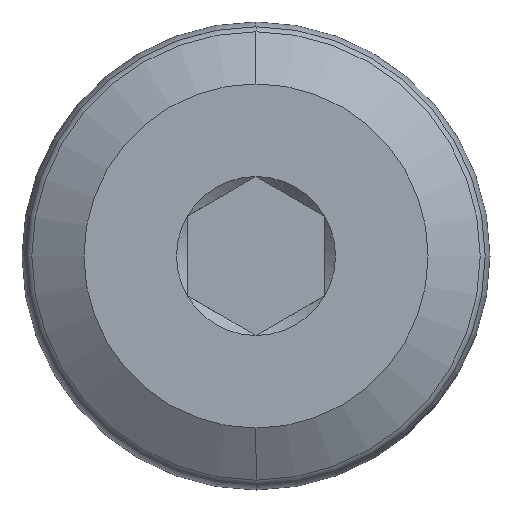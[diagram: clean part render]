
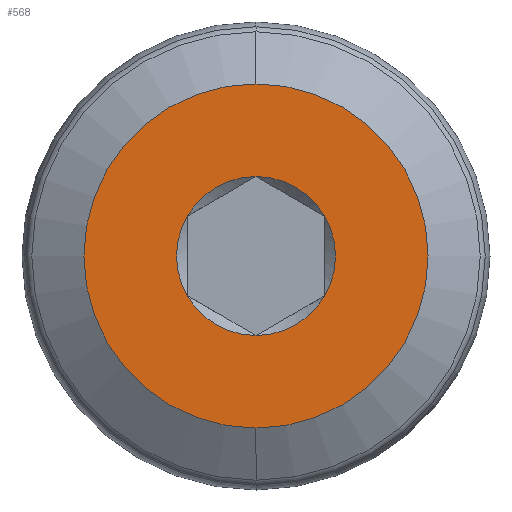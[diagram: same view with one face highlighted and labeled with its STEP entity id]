
A CAD part, left-side view. The second image highlights one B-rep face of the part: STEP entity #568.
In plain terms, the highlighted planar face has unit normal (-1, 0, 0).
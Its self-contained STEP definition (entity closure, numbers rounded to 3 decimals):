
#1 = FACE_OUTER_BOUND ( 'NONE', #299, .T. ) ;
#2 = ORIENTED_EDGE ( 'NONE', *, *, #730, .T. ) ;
#3 = CIRCLE ( 'NONE', #588, 1.155 ) ;
#9 = CARTESIAN_POINT ( 'NONE',  ( 0., 0., 0. ) ) ;
#20 = VERTEX_POINT ( 'NONE', #700 ) ;
#22 = CARTESIAN_POINT ( 'NONE',  ( 0., 0., 0. ) ) ;
#23 = VERTEX_POINT ( 'NONE', #460 ) ;
#31 = EDGE_CURVE ( 'NONE', #471, #623, #334, .T. ) ;
#43 = ORIENTED_EDGE ( 'NONE', *, *, #688, .T. ) ;
#61 = DIRECTION ( 'NONE',  ( 0., 0., -1. ) ) ;
#62 = CARTESIAN_POINT ( 'NONE',  ( 0., 1., 0.577 ) ) ;
#117 = DIRECTION ( 'NONE',  ( 0., 0., -1. ) ) ;
#124 = CARTESIAN_POINT ( 'NONE',  ( 0., 0., 0. ) ) ;
#128 = AXIS2_PLACEMENT_3D ( 'NONE', #124, #129, #61 ) ;
#129 = DIRECTION ( 'NONE',  ( 1., 0., 0. ) ) ;
#132 = ORIENTED_EDGE ( 'NONE', *, *, #357, .T. ) ;
#143 = VERTEX_POINT ( 'NONE', #288 ) ;
#147 = DIRECTION ( 'NONE',  ( 1., 0., 0. ) ) ;
#154 = CIRCLE ( 'NONE', #573, 1.155 ) ;
#162 = VERTEX_POINT ( 'NONE', #338 ) ;
#179 = PLANE ( 'NONE',  #462 ) ;
#228 = EDGE_CURVE ( 'NONE', #623, #471, #690, .T. ) ;
#236 = AXIS2_PLACEMENT_3D ( 'NONE', #333, #511, #635 ) ;
#250 = DIRECTION ( 'NONE',  ( 0., 0., -1. ) ) ;
#254 = DIRECTION ( 'NONE',  ( 0., 0., 1. ) ) ;
#261 = CARTESIAN_POINT ( 'NONE',  ( 0., 0., -1.155 ) ) ;
#288 = CARTESIAN_POINT ( 'NONE',  ( 0., -1., 0.577 ) ) ;
#299 = EDGE_LOOP ( 'NONE', ( #659, #366 ) ) ;
#304 = CIRCLE ( 'NONE', #710, 1.155 ) ;
#322 = DIRECTION ( 'NONE',  ( 1., 0., 0. ) ) ;
#324 = EDGE_CURVE ( 'NONE', #162, #542, #325, .T. ) ;
#325 = CIRCLE ( 'NONE', #722, 1.155 ) ;
#333 = CARTESIAN_POINT ( 'NONE',  ( 0., 0., 0. ) ) ;
#334 = CIRCLE ( 'NONE', #236, 2.5 ) ;
#338 = CARTESIAN_POINT ( 'NONE',  ( 0., 1., -0.577 ) ) ;
#339 = EDGE_CURVE ( 'NONE', #542, #23, #407, .T. ) ;
#357 = EDGE_CURVE ( 'NONE', #20, #780, #383, .T. ) ;
#360 = FACE_BOUND ( 'NONE', #522, .T. ) ;
#366 = ORIENTED_EDGE ( 'NONE', *, *, #228, .F. ) ;
#374 = CARTESIAN_POINT ( 'NONE',  ( 0., 0., 2.5 ) ) ;
#381 = CARTESIAN_POINT ( 'NONE',  ( 0., 0., -2.5 ) ) ;
#383 = CIRCLE ( 'NONE', #128, 1.155 ) ;
#394 = EDGE_CURVE ( 'NONE', #780, #162, #3, .T. ) ;
#398 = CARTESIAN_POINT ( 'NONE',  ( 0., 0., 0. ) ) ;
#403 = AXIS2_PLACEMENT_3D ( 'NONE', #712, #412, #774 ) ;
#407 = CIRCLE ( 'NONE', #564, 1.155 ) ;
#412 = DIRECTION ( 'NONE',  ( 1., 0., 0. ) ) ;
#422 = DIRECTION ( 'NONE',  ( 1., 0., 0. ) ) ;
#427 = DIRECTION ( 'NONE',  ( 1., 0., 0. ) ) ;
#434 = ORIENTED_EDGE ( 'NONE', *, *, #394, .T. ) ;
#437 = DIRECTION ( 'NONE',  ( -1., 0., 0. ) ) ;
#460 = CARTESIAN_POINT ( 'NONE',  ( 0., 0., 1.155 ) ) ;
#462 = AXIS2_PLACEMENT_3D ( 'NONE', #733, #437, #254 ) ;
#471 = VERTEX_POINT ( 'NONE', #381 ) ;
#500 = CARTESIAN_POINT ( 'NONE',  ( 0., 0., 0. ) ) ;
#511 = DIRECTION ( 'NONE',  ( 1., 0., 0. ) ) ;
#522 = EDGE_LOOP ( 'NONE', ( #621, #43, #2, #132, #434, #656 ) ) ;
#542 = VERTEX_POINT ( 'NONE', #62 ) ;
#560 = DIRECTION ( 'NONE',  ( 0., 0., -1. ) ) ;
#564 = AXIS2_PLACEMENT_3D ( 'NONE', #783, #605, #560 ) ;
#568 = ADVANCED_FACE ( 'NONE', ( #360, #1 ), #179, .T. ) ;
#573 = AXIS2_PLACEMENT_3D ( 'NONE', #9, #427, #250 ) ;
#588 = AXIS2_PLACEMENT_3D ( 'NONE', #398, #322, #633 ) ;
#605 = DIRECTION ( 'NONE',  ( 1., 0., 0. ) ) ;
#621 = ORIENTED_EDGE ( 'NONE', *, *, #339, .T. ) ;
#623 = VERTEX_POINT ( 'NONE', #374 ) ;
#633 = DIRECTION ( 'NONE',  ( 0., 0., -1. ) ) ;
#635 = DIRECTION ( 'NONE',  ( 0., 0., -1. ) ) ;
#656 = ORIENTED_EDGE ( 'NONE', *, *, #324, .T. ) ;
#659 = ORIENTED_EDGE ( 'NONE', *, *, #31, .F. ) ;
#688 = EDGE_CURVE ( 'NONE', #23, #143, #154, .T. ) ;
#690 = CIRCLE ( 'NONE', #403, 2.5 ) ;
#692 = DIRECTION ( 'NONE',  ( 0., 0., -1. ) ) ;
#700 = CARTESIAN_POINT ( 'NONE',  ( 0., -1., -0.577 ) ) ;
#710 = AXIS2_PLACEMENT_3D ( 'NONE', #22, #147, #692 ) ;
#712 = CARTESIAN_POINT ( 'NONE',  ( 0., 0., 0. ) ) ;
#722 = AXIS2_PLACEMENT_3D ( 'NONE', #500, #422, #117 ) ;
#730 = EDGE_CURVE ( 'NONE', #143, #20, #304, .T. ) ;
#733 = CARTESIAN_POINT ( 'NONE',  ( 0., 2.5, 0. ) ) ;
#774 = DIRECTION ( 'NONE',  ( 0., 0., -1. ) ) ;
#780 = VERTEX_POINT ( 'NONE', #261 ) ;
#783 = CARTESIAN_POINT ( 'NONE',  ( 0., 0., 0. ) ) ;
